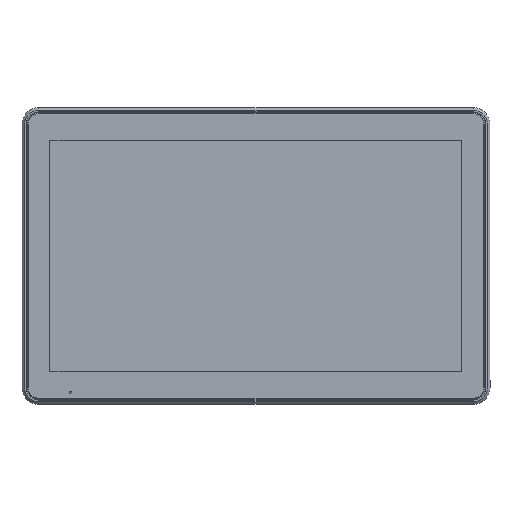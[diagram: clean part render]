
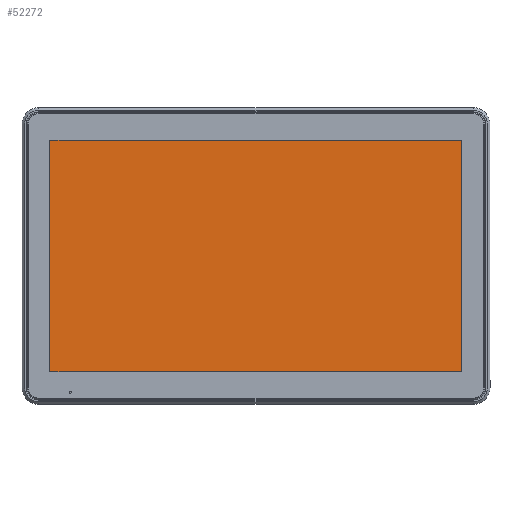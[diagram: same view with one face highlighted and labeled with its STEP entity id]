
A CAD part, top view. The second image highlights one B-rep face of the part: STEP entity #52272.
In plain terms, the highlighted planar face has unit normal (0, 0, 1).
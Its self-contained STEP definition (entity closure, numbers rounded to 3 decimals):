
#5608=FACE_OUTER_BOUND('',#8638,.T.);
#8638=EDGE_LOOP('',(#43798,#43799,#43800,#43801));
#13096=LINE('',#92229,#17580);
#13099=LINE('',#92235,#17583);
#13102=LINE('',#92241,#17586);
#13105=LINE('',#92245,#17589);
#17580=VECTOR('',#65837,10.);
#17583=VECTOR('',#65842,10.);
#17586=VECTOR('',#65847,10.);
#17589=VECTOR('',#65852,10.);
#23375=VERTEX_POINT('',#92226);
#23376=VERTEX_POINT('',#92228);
#23378=VERTEX_POINT('',#92234);
#23380=VERTEX_POINT('',#92240);
#30261=EDGE_CURVE('',#23376,#23375,#13096,.T.);
#30264=EDGE_CURVE('',#23378,#23376,#13099,.T.);
#30267=EDGE_CURVE('',#23380,#23378,#13102,.T.);
#30270=EDGE_CURVE('',#23375,#23380,#13105,.T.);
#43798=ORIENTED_EDGE('',*,*,#30261,.T.);
#43799=ORIENTED_EDGE('',*,*,#30270,.T.);
#43800=ORIENTED_EDGE('',*,*,#30267,.T.);
#43801=ORIENTED_EDGE('',*,*,#30264,.T.);
#47048=PLANE('',#55525);
#52272=ADVANCED_FACE('',(#5608),#47048,.T.);
#55525=AXIS2_PLACEMENT_3D('',#92310,#65922,#65923);
#65837=DIRECTION('',(1.,0.,0.));
#65842=DIRECTION('',(0.,-1.,0.));
#65847=DIRECTION('',(-1.,0.,0.));
#65852=DIRECTION('',(0.,1.,0.));
#65922=DIRECTION('center_axis',(0.,0.,
1.));
#65923=DIRECTION('ref_axis',(-1.,0.,0.));
#92226=CARTESIAN_POINT('',(204.6,-115.9,2.998));
#92228=CARTESIAN_POINT('',(-205.6,-115.9,2.998));
#92229=CARTESIAN_POINT('',(-0.375,-115.9,2.998));
#92234=CARTESIAN_POINT('',(-205.6,114.9,2.998));
#92235=CARTESIAN_POINT('',(-205.6,-58.25,2.998));
#92240=CARTESIAN_POINT('',(204.6,114.9,2.998));
#92241=CARTESIAN_POINT('',(-102.925,114.9,2.998));
#92245=CARTESIAN_POINT('',(204.6,-0.55,2.998));
#92310=CARTESIAN_POINT('Origin',(-0.25,-0.6,
2.998));
